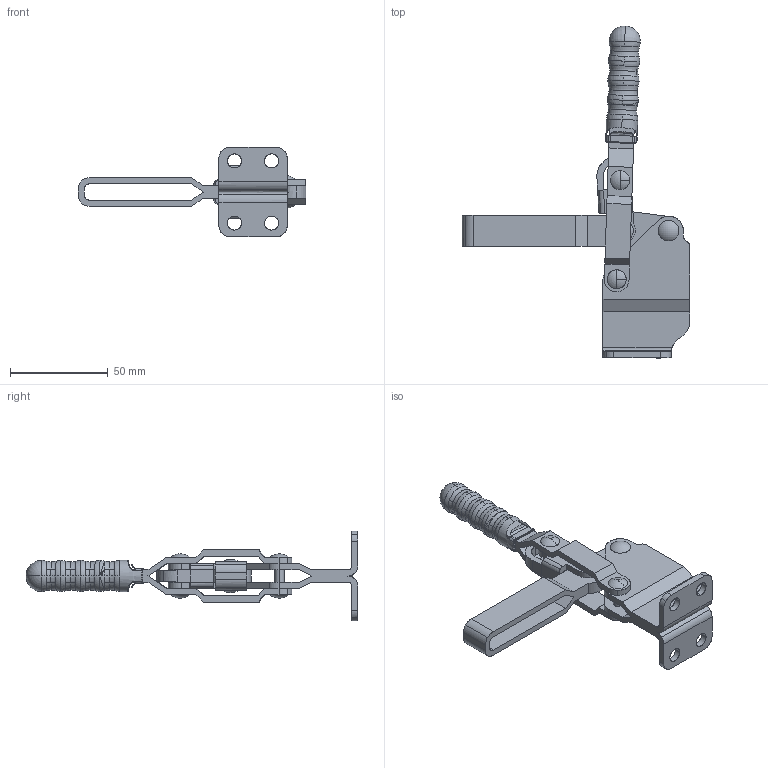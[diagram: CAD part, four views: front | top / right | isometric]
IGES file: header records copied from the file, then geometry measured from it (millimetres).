
Start section: Comment
Global section: file name: 12130hb.igs; native system:  By Spatial Corp.; preprocessor: XPlus PS/IGES 3.0; author: Author; organization: Title; date: 20050216.170729; units: inch
Bounding box: 116.65 x 170.03 x 46 mm (x, y, z)
Surface area: 38379.1 mm2 (no closed solid volume)
Topology: 0 solids, 0 shells, 315 faces, 1685 edges, 1610 vertices
Faces by surface type: revolution 209, extrusion 104, bspline 2
